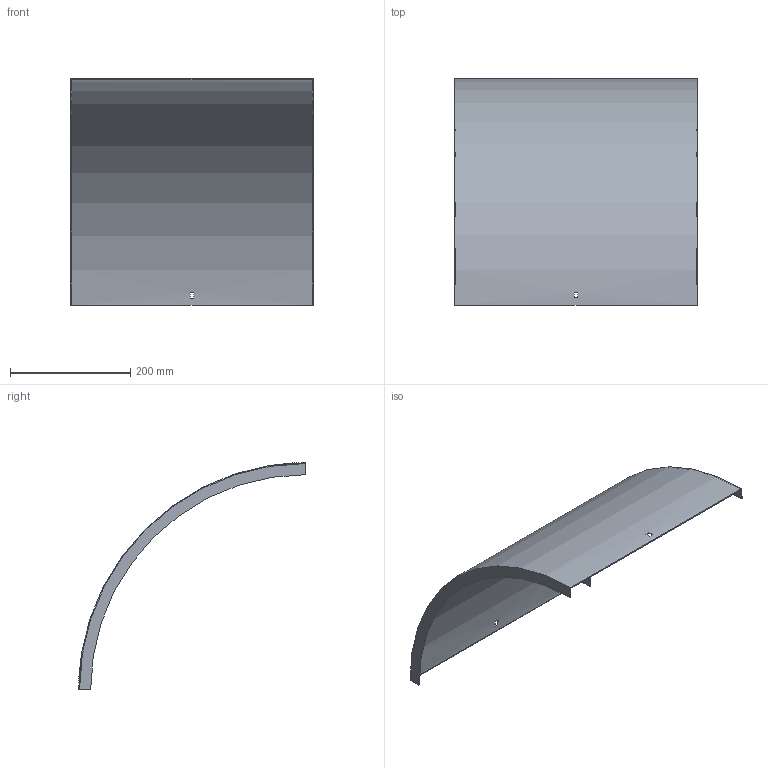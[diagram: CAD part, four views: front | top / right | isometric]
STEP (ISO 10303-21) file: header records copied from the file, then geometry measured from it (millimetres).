
FILE_DESCRIPTION (( 'STEP AP214' ), '1' );
FILE_NAME ('B2_33N3C400.step', '2025-02-21T10:46:32', ( '' ), ( '' ), 'SwSTEP 2.0', 'SolidWorks 2023', '' );
FILE_SCHEMA (( 'AUTOMOTIVE_DESIGN' ));
Length unit declared in the file: millimetre
Products named in the file (1): B2_33N3C400
Bounding box: 403 x 376.5 x 376.5 mm (x, y, z)
Volume: 388502.2 mm3; surface area: 521099.5 mm2
Topology: 1 solids, 1 shells, 18 faces, 48 edges, 32 vertices
Faces by surface type: plane 14, cylinder 4
Entity records: 599 total; most frequent: DIRECTION 102, CARTESIAN_POINT 99, ORIENTED_EDGE 96, EDGE_CURVE 48, AXIS2_PLACEMENT_3D 35, VERTEX_POINT 32, LINE 32, VECTOR 32
